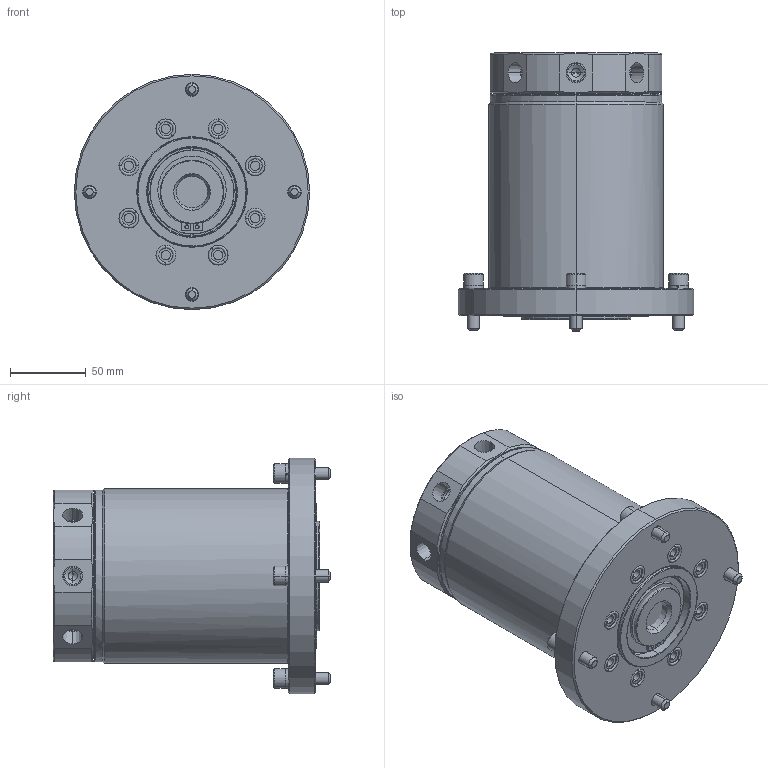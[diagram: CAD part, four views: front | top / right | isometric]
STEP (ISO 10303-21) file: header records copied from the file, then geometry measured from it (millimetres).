
FILE_DESCRIPTION((' '),'2;1');
FILE_NAME( 'TMB08-S-G-S.x_t.stp', '2024-09-03T08:15:25', (' '), ('--- Datakit www.datakit.com---'), ' Datakit CrossCadWare V2024.1 Dec 21 2023', 'Mastercam 2025', ' ');
FILE_SCHEMA(('AUTOMOTIVE_DESIGN { 1 0 10303 214 1 1 1 1 }'));
Length unit declared in the file: millimetre
Products named in the file (1): TMB08-S-G-S
Bounding box: 155 x 183 x 155 mm (x, y, z)
Volume: 2122867.4 mm3; surface area: 181010.8 mm2
Topology: 20 solids, 20 shells, 516 faces, 1103 edges, 635 vertices
Faces by surface type: cylinder 182, cone 150, plane 138, torus 46
Entity records: 14475 total; most frequent: DIRECTION 2682, CARTESIAN_POINT 2603, ORIENTED_EDGE 2126, AXIS2_PLACEMENT_3D 1146, EDGE_CURVE 1063, VERTEX_POINT 635, CIRCLE 613, EDGE_LOOP 596
